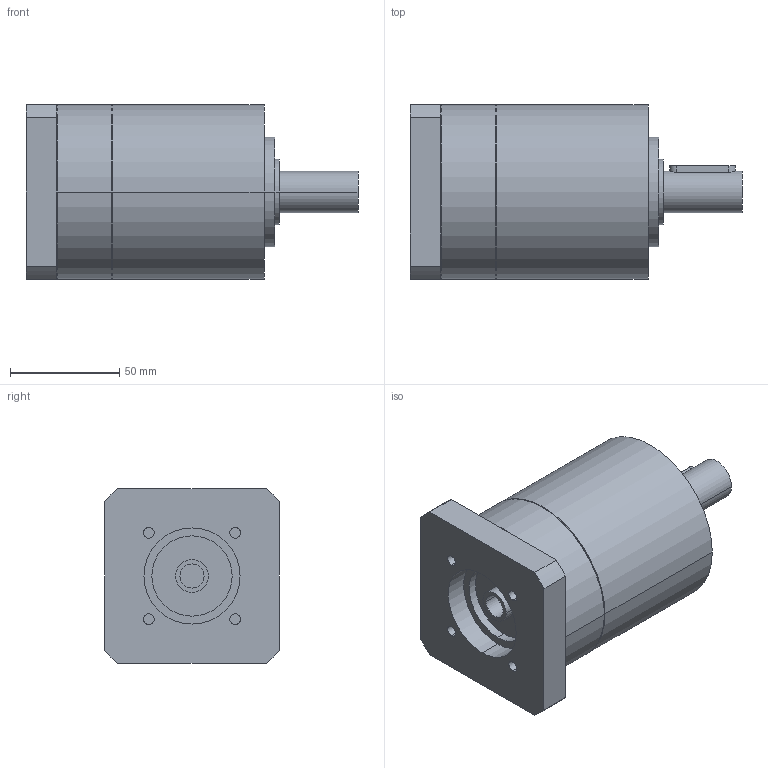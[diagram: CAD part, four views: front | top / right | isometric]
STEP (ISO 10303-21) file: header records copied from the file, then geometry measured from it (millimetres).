
FILE_DESCRIPTION(('CoCreate Modeling STEP Export'),'2;1');
FILE_NAME('GPR100_ig-3-4-5-6_19_B14_11_P31.stp','2014-08-26T10:01:58',(''),(''),'CoCreate Modeling STEP processor for AP214 (Solid Model)','CoCreate Modeling 16.00C 25-Feb-2009 (C) Parametric Technology GmbH','');
FILE_SCHEMA(('AUTOMOTIVE_DESIGN { 1 0 10303 214 1 1 1 1 }'));
Length unit declared in the file: millimetre
Products named in the file (2): GPR100_ig-3-4-5-6_19_B14_11_P31
Assembly tree (1 placements, depth 2):
  GPR100_ig-3-4-5-6_19_B14_11_P31
    GPR100_ig-3-4-5-6_19_B14_11_P31
Bounding box: 152 x 80 x 80 mm (x, y, z)
Volume: 564283 mm3; surface area: 49660.7 mm2
Topology: 1 solids, 1 shells, 74 faces, 187 edges, 131 vertices
Faces by surface type: cylinder 42, plane 26, cone 6
Entity records: 1943 total; most frequent: ORIENTED_EDGE 370, CARTESIAN_POINT 360, DIRECTION 264, EDGE_CURVE 185, VERTEX_POINT 131, AXIS2_PLACEMENT_3D 99, EDGE_LOOP 92, FACE_OUTER_BOUND 74
